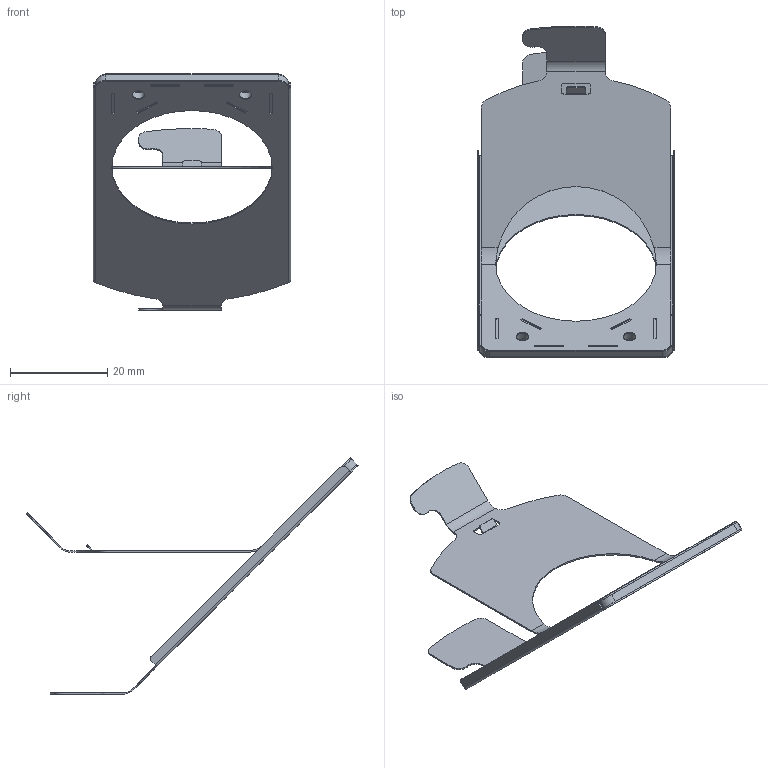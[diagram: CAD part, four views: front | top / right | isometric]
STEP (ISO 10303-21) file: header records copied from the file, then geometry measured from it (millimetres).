
FILE_DESCRIPTION(('FreeCAD Model'),'2;1');
FILE_NAME('Open CASCADE Shape Model','2024-02-27T08:24:50',( 'Lukas Balthasar Pank'),('Astera LED Technology GmbH'), 'Open CASCADE STEP processor 7.6','FreeCAD','Unknown');
FILE_SCHEMA(('AUTOMOTIVE_DESIGN { 1 0 10303 214 1 1 1 1 }'));
Length unit declared in the file: millimetre
Products named in the file (4): AF80-PLS-GBH_Gobo Holde; LOGO-H1-A3; LOGO-H2-A3; LOGO-H3-A3
Assembly tree (3 placements, depth 2):
  AF80-PLS-GBH_Gobo Holde
    LOGO-H1-A3
    LOGO-H2-A3
    LOGO-H3-A3
Bounding box: 40.6 x 68.28 x 48.63 mm (x, y, z)
Volume: 1719.9 mm3; surface area: 8857.1 mm2
Topology: 3 solids, 3 shells, 174 faces, 478 edges, 308 vertices
Faces by surface type: plane 95, cylinder 73, bspline 6
Entity records: 5958 total; most frequent: CARTESIAN_POINT 1284, ORIENTED_EDGE 956, DIRECTION 948, EDGE_CURVE 478, LINE 328, VECTOR 328, AXIS2_PLACEMENT_3D 310, VERTEX_POINT 308
